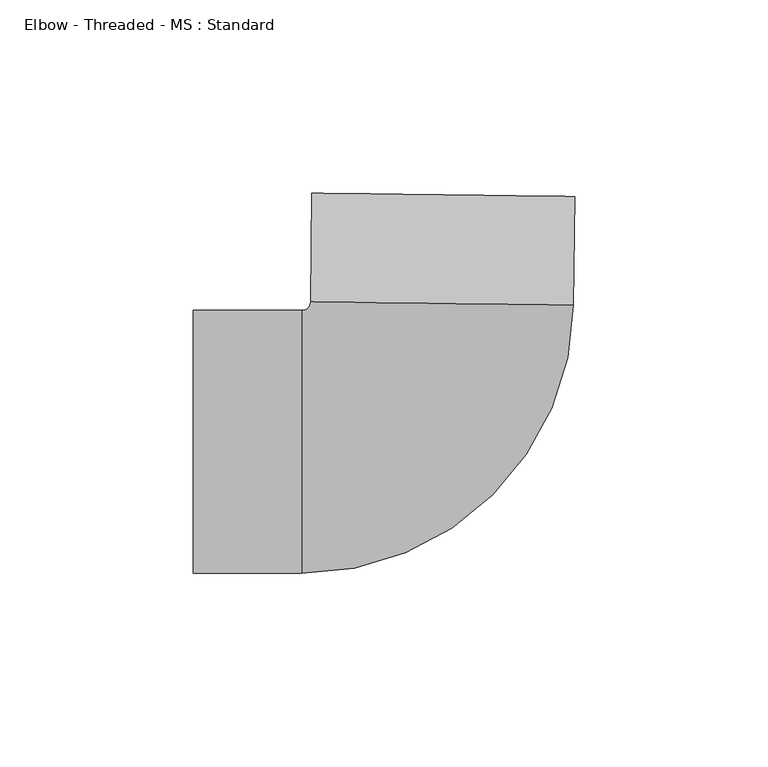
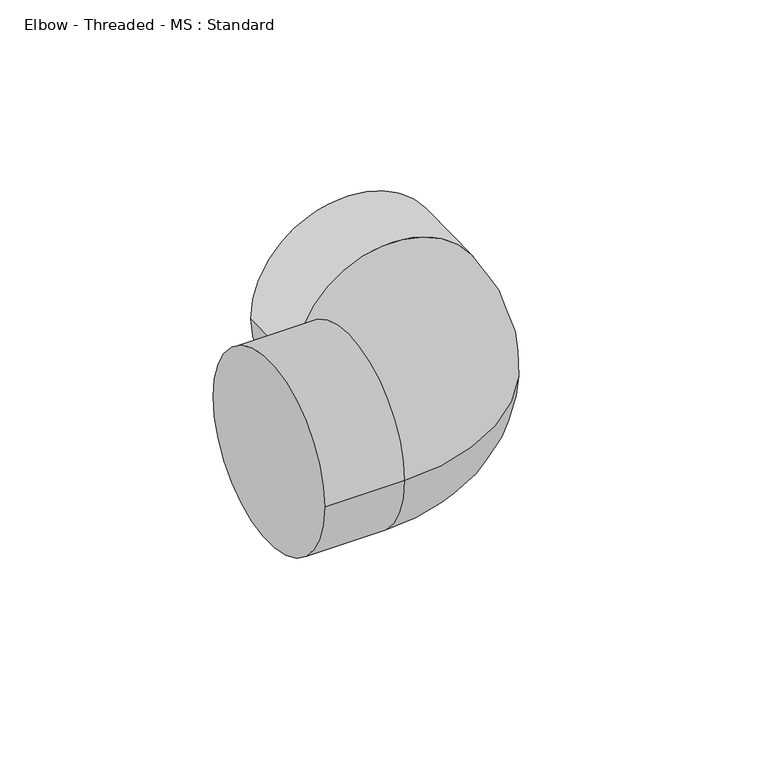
"""IFC4 building model written with IfcOpenShell, lengths in millimetres: pipe fitting geometry, Elbow - Threaded - MS : Standard."""

from ifc_helpers import new_model, si_unit, point, frame, origin, place, context, project, spatial, circle_curve, ellipse_curve, trimmed, source, transform, mapped, element, save
from ifc_brep_helpers import plane_surface, cylinder_surface, revolved_surface, advanced_brep


def elbow_threaded_ms_standard_8504ba8a(model_context):
    return source(origin(), model_context, "Body", "AdvancedBrep", [
        advanced_brep(
        [(-63.9, -34.0, 0.0), (-63.9, 34.0, 0.0), (-35.784, -34.0, 0.0), (-35.784, 34.0, 0.0), (-33.550079, 36.2061715, 0.0), (34.4446091, 35.3562379, 0.0), (34.7960317, 63.4700416, 0.0), (-33.1986565, 64.3199752, 0.0)],
        [
            (0, 1, circle_curve(frame((-63.9, 0.0, 0.0), z_axis=(-1.0, 0.0, 0.0), x_axis=(0.0, 1.0, 0.0)), 34.0)),
            (1, 0, circle_curve(frame((-63.9, 0.0, 0.0), z_axis=(-1.0, 0.0, 0.0), x_axis=(0.0, 1.0, 0.0)), 34.0)),
            (0, 2),
            (2, 3, circle_curve(frame((-35.784, 0.0, 0.0), z_axis=(-1.0, 0.0, 0.0), x_axis=(0.0, 1.0, 0.0)), 34.0)),
            (3, 1),
            (3, 2, circle_curve(frame((-35.784, 0.0, 0.0), z_axis=(-1.0, 0.0, 0.0), x_axis=(0.0, 1.0, 0.0)), 34.0)),
            (4, 3, circle_curve(frame((-35.784, 36.2340955, 0.0), z_axis=(0.0, 0.0, -1.0), x_axis=(0.0, -1.0, 0.0)), 2.2340955)),
            (2, 5, circle_curve(frame((-35.784, 36.2340955, 0.0), z_axis=(0.0, 0.0, 1.0), x_axis=(0.0, -1.0, 0.0)), 70.2340955)),
            (5, 4, circle_curve(frame((0.4472651, 35.7812047, 0.0), z_axis=(-0.012499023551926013, -0.9999218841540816, 0.0), x_axis=(-0.9999218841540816, 0.012499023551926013, 0.0)), 34.0)),
            (4, 5, circle_curve(frame((0.4472651, 35.7812047, 0.0), z_axis=(-0.01249902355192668, -0.9999218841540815, 0.0), x_axis=(-0.9999218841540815, 0.01249902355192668, 0.0)), 34.0)),
            (6, 7, circle_curve(frame((0.7986876, 63.8950084, 0.0), z_axis=(0.01249902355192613, 0.9999218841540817, 0.0), x_axis=(-0.9999218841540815, 0.012499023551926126, 0.0)), 34.0)),
            (7, 6, circle_curve(frame((0.7986876, 63.8950084, 0.0), z_axis=(0.01249902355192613, 0.9999218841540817, 0.0), x_axis=(-0.9999218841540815, 0.012499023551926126, 0.0)), 34.0)),
            (5, 6),
            (7, 4),
        ],
        [
            plane_surface(frame((-63.9, 0.0, 0.0), z_axis=(-1.0, 0.0, 0.0), x_axis=(0.0, 0.0, 1.0))),
            cylinder_surface(frame((-63.9, 0.0, 0.0), z_axis=(-1.0, 0.0, 0.0), x_axis=(0.0, 1.0, 0.0)), 34.0),
            revolved_surface(trimmed(ellipse_curve(frame((-35.784, 0.0, 0.0), z_axis=(-1.0, 0.0, 0.0), x_axis=(0.0, 1.0, 0.0)), 34.0, 34.0), [point((-35.784, -34.0, 0.0))], [point((-35.784, 34.0, 0.0))], True, "CARTESIAN"), (-35.784, 36.2340955, 0.0), (0.0, 0.0, 1.0)),
            revolved_surface(trimmed(ellipse_curve(frame((-35.784, 0.0, 0.0), z_axis=(-1.0, 0.0, 0.0), x_axis=(0.0, 1.0, 0.0)), 34.0, 34.0), [point((-35.784, 34.0, 0.0))], [point((-35.784, -34.0, 0.0))], True, "CARTESIAN"), (-35.784, 36.2340955, 0.0), (0.0, 0.0, 1.0)),
            plane_surface(frame((0.7986876, 63.8950084, 0.0), z_axis=(0.01249902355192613, 0.9999218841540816, 0.0), x_axis=(0.0, 0.0, 1.0))),
            cylinder_surface(frame((0.4472651, 35.7812047, 0.0), z_axis=(-0.012499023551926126, -0.9999218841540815, 0.0), x_axis=(-0.9999218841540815, 0.012499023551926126, 0.0)), 34.0),
        ],
        [
            (0, [[1, 2]]),
            (1, [[-1, 3, 4, 5]]),
            (1, [[-2, -5, 6, -3]]),
            (2, [[7, -4, 8, 9]]),
            (3, [[-8, -6, -7, 10]]),
            (4, [[11, 12]]),
            (5, [[-9, 13, -12, 14]]),
            (5, [[-10, -14, -11, -13]]),
        ],
    ),
    ])


if __name__ == "__main__":
    model = new_model("IFC4")
    model_context = context("Model", 3, world=origin())
    ifc_project = project(units=[si_unit("LENGTHUNIT", "METRE", prefix="MILLI")], contexts=[model_context])
    site = spatial("IfcSite", under=ifc_project)
    building = spatial("IfcBuilding", under=site)
    placement = place(None, origin())
    elbow_threaded_ms_standard_shape = elbow_threaded_ms_standard_8504ba8a(model_context)
    element("IfcPipeFitting", 1, ObjectType="Elbow - Threaded - MS : Standard", at=placement, inside=building, context=model_context, shape_type="MappedRepresentation", body=[
        mapped(elbow_threaded_ms_standard_shape, transform((0.0, 0.0, 0.0), x_axis=(1.0, 0.0, 0.0), y_axis=(0.0, 1.0, 0.0), z_axis=(0.0, 0.0, 1.0))),
    ])
    save(model, "model.ifc")
